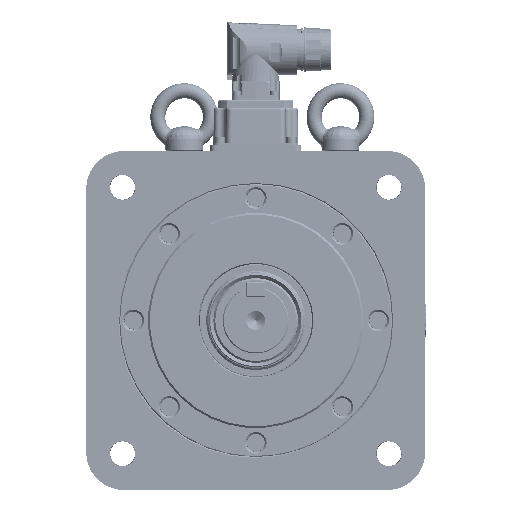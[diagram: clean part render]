
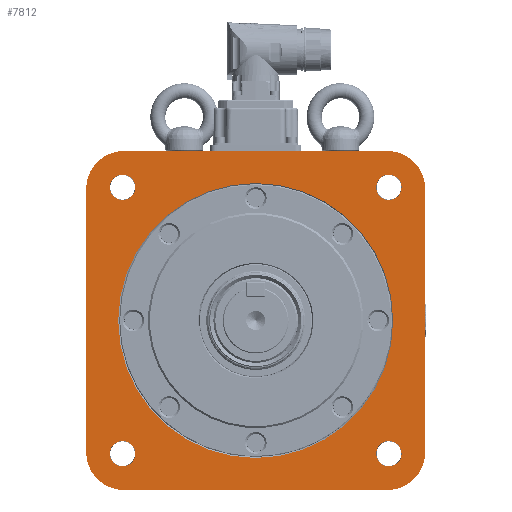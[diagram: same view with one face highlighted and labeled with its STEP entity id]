
A CAD part, front view. The second image highlights one B-rep face of the part: STEP entity #7812.
In plain terms, the highlighted planar face has unit normal (0, -1, 0).
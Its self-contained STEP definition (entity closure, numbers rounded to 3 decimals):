
#7812 = ADVANCED_FACE( '', ( #17096, #17097, #17098, #17099, #17100, #17101 ), #17102, .F. );
#17096 = FACE_BOUND( '', #40166, .T. );
#17097 = FACE_BOUND( '', #40167, .T. );
#17098 = FACE_BOUND( '', #40168, .T. );
#17099 = FACE_BOUND( '', #40169, .T. );
#17100 = FACE_BOUND( '', #40170, .T. );
#17101 = FACE_OUTER_BOUND( '', #40171, .T. );
#17102 = PLANE( '', #40172 );
#40166 = EDGE_LOOP( '', ( #65919 ) );
#40167 = EDGE_LOOP( '', ( #65920 ) );
#40168 = EDGE_LOOP( '', ( #65921 ) );
#40169 = EDGE_LOOP( '', ( #65922 ) );
#40170 = EDGE_LOOP( '', ( #65923 ) );
#40171 = EDGE_LOOP( '', ( #65924, #65925, #65926, #65927, #65928, #65929, #65930, #65931 ) );
#40172 = AXIS2_PLACEMENT_3D( '', #65932, #65933, #65934 );
#65919 = ORIENTED_EDGE( '', *, *, #80251, .T. );
#65920 = ORIENTED_EDGE( '', *, *, #78790, .F. );
#65921 = ORIENTED_EDGE( '', *, *, #80252, .F. );
#65922 = ORIENTED_EDGE( '', *, *, #80253, .F. );
#65923 = ORIENTED_EDGE( '', *, *, #75974, .F. );
#65924 = ORIENTED_EDGE( '', *, *, #80254, .T. );
#65925 = ORIENTED_EDGE( '', *, *, #78878, .T. );
#65926 = ORIENTED_EDGE( '', *, *, #80255, .T. );
#65927 = ORIENTED_EDGE( '', *, *, #80256, .T. );
#65928 = ORIENTED_EDGE( '', *, *, #80257, .T. );
#65929 = ORIENTED_EDGE( '', *, *, #74470, .T. );
#65930 = ORIENTED_EDGE( '', *, *, #80258, .T. );
#65931 = ORIENTED_EDGE( '', *, *, #76035, .T. );
#65932 = CARTESIAN_POINT( '', ( 0., -170., 72.5 ) );
#65933 = DIRECTION( '', ( 0., 1., 0. ) );
#65934 = DIRECTION( '', ( 0., 0., 1. ) );
#74470 = EDGE_CURVE( '', #86831, #86832, #86833, .F. );
#75974 = EDGE_CURVE( '', #89202, #89202, #89203, .F. );
#76035 = EDGE_CURVE( '', #89294, #89295, #89296, .F. );
#78790 = EDGE_CURVE( '', #93140, #93140, #93141, .F. );
#78878 = EDGE_CURVE( '', #93249, #93250, #93251, .F. );
#80251 = EDGE_CURVE( '', #94921, #94921, #94922, .T. );
#80252 = EDGE_CURVE( '', #94923, #94923, #94924, .F. );
#80253 = EDGE_CURVE( '', #94925, #94925, #94926, .F. );
#80254 = EDGE_CURVE( '', #89295, #93249, #94927, .T. );
#80255 = EDGE_CURVE( '', #93250, #94928, #94929, .T. );
#80256 = EDGE_CURVE( '', #94928, #94930, #94931, .F. );
#80257 = EDGE_CURVE( '', #94930, #86831, #94932, .T. );
#80258 = EDGE_CURVE( '', #86832, #89294, #94933, .T. );
#86831 = VERTEX_POINT( '', #109275 );
#86832 = VERTEX_POINT( '', #109276 );
#86833 = CIRCLE( '', #109277, 20. );
#89202 = VERTEX_POINT( '', #114712 );
#89203 = CIRCLE( '', #114713, 6.745 );
#89294 = VERTEX_POINT( '', #114841 );
#89295 = VERTEX_POINT( '', #114842 );
#89296 = CIRCLE( '', #114843, 20. );
#93140 = VERTEX_POINT( '', #125671 );
#93141 = CIRCLE( '', #125672, 6.745 );
#93249 = VERTEX_POINT( '', #125929 );
#93250 = VERTEX_POINT( '', #125930 );
#93251 = CIRCLE( '', #125931, 20. );
#94921 = VERTEX_POINT( '', #129576 );
#94922 = CIRCLE( '', #129577, 73. );
#94923 = VERTEX_POINT( '', #129578 );
#94924 = CIRCLE( '', #129579, 6.745 );
#94925 = VERTEX_POINT( '', #129580 );
#94926 = CIRCLE( '', #129581, 6.745 );
#94927 = LINE( '', #129582, #129583 );
#94928 = VERTEX_POINT( '', #129584 );
#94929 = LINE( '', #129585, #129586 );
#94930 = VERTEX_POINT( '', #129587 );
#94931 = CIRCLE( '', #129588, 20. );
#94932 = LINE( '', #129589, #129590 );
#94933 = LINE( '', #129591, #129592 );
#109275 = CARTESIAN_POINT( '', ( 90., -170., 70. ) );
#109276 = CARTESIAN_POINT( '', ( 70., -170., 90. ) );
#109277 = AXIS2_PLACEMENT_3D( '', #136113, #136114, #136115 );
#114712 = CARTESIAN_POINT( '', ( -70.711, -170., -63.966 ) );
#114713 = AXIS2_PLACEMENT_3D( '', #137880, #137881, #137882 );
#114841 = CARTESIAN_POINT( '', ( -70., -170., 90. ) );
#114842 = CARTESIAN_POINT( '', ( -90., -170., 70. ) );
#114843 = AXIS2_PLACEMENT_3D( '', #137953, #137954, #137955 );
#125671 = CARTESIAN_POINT( '', ( -70.711, -170., 77.455 ) );
#125672 = AXIS2_PLACEMENT_3D( '', #140844, #140845, #140846 );
#125929 = CARTESIAN_POINT( '', ( -90., -170., -70. ) );
#125930 = CARTESIAN_POINT( '', ( -70., -170., -90. ) );
#125931 = AXIS2_PLACEMENT_3D( '', #140938, #140939, #140940 );
#129576 = CARTESIAN_POINT( '', ( 0., -170., 73. ) );
#129577 = AXIS2_PLACEMENT_3D( '', #142165, #142166, #142167 );
#129578 = CARTESIAN_POINT( '', ( 70.711, -170., 77.455 ) );
#129579 = AXIS2_PLACEMENT_3D( '', #142168, #142169, #142170 );
#129580 = CARTESIAN_POINT( '', ( 70.711, -170., -63.966 ) );
#129581 = AXIS2_PLACEMENT_3D( '', #142171, #142172, #142173 );
#129582 = CARTESIAN_POINT( '', ( -90., -170., 90. ) );
#129583 = VECTOR( '', #142174, 1000. );
#129584 = CARTESIAN_POINT( '', ( 70., -170., -90. ) );
#129585 = CARTESIAN_POINT( '', ( -90., -170., -90. ) );
#129586 = VECTOR( '', #142175, 1000. );
#129587 = CARTESIAN_POINT( '', ( 90., -170., -70. ) );
#129588 = AXIS2_PLACEMENT_3D( '', #142176, #142177, #142178 );
#129589 = CARTESIAN_POINT( '', ( 90., -170., -90. ) );
#129590 = VECTOR( '', #142179, 1000. );
#129591 = CARTESIAN_POINT( '', ( 90., -170., 90. ) );
#129592 = VECTOR( '', #142180, 1000. );
#136113 = CARTESIAN_POINT( '', ( 70., -170., 70. ) );
#136114 = DIRECTION( '', ( 0., 1., 0. ) );
#136115 = DIRECTION( '', ( 0., 0., 1. ) );
#137880 = CARTESIAN_POINT( '', ( -70.711, -170., -70.711 ) );
#137881 = DIRECTION( '', ( 0., 1., 0. ) );
#137882 = DIRECTION( '', ( 0., 0., 1. ) );
#137953 = CARTESIAN_POINT( '', ( -70., -170., 70. ) );
#137954 = DIRECTION( '', ( 0., 1., 0. ) );
#137955 = DIRECTION( '', ( 0., 0., 1. ) );
#140844 = CARTESIAN_POINT( '', ( -70.711, -170., 70.711 ) );
#140845 = DIRECTION( '', ( 0., 1., 0. ) );
#140846 = DIRECTION( '', ( 0., 0., 1. ) );
#140938 = CARTESIAN_POINT( '', ( -70., -170., -70. ) );
#140939 = DIRECTION( '', ( 0., 1., 0. ) );
#140940 = DIRECTION( '', ( 0., 0., 1. ) );
#142165 = CARTESIAN_POINT( '', ( 0., -170., 0. ) );
#142166 = DIRECTION( '', ( 0., 1., 0. ) );
#142167 = DIRECTION( '', ( 0., 0., 1. ) );
#142168 = CARTESIAN_POINT( '', ( 70.711, -170., 70.711 ) );
#142169 = DIRECTION( '', ( 0., 1., 0. ) );
#142170 = DIRECTION( '', ( 0., 0., 1. ) );
#142171 = CARTESIAN_POINT( '', ( 70.711, -170., -70.711 ) );
#142172 = DIRECTION( '', ( 0., 1., 0. ) );
#142173 = DIRECTION( '', ( 0., 0., 1. ) );
#142174 = DIRECTION( '', ( 0., 0., -1. ) );
#142175 = DIRECTION( '', ( 1., 0., 0. ) );
#142176 = CARTESIAN_POINT( '', ( 70., -170., -70. ) );
#142177 = DIRECTION( '', ( 0., 1., 0. ) );
#142178 = DIRECTION( '', ( 0., 0., 1. ) );
#142179 = DIRECTION( '', ( 0., 0., 1. ) );
#142180 = DIRECTION( '', ( -1., 0., 0. ) );
